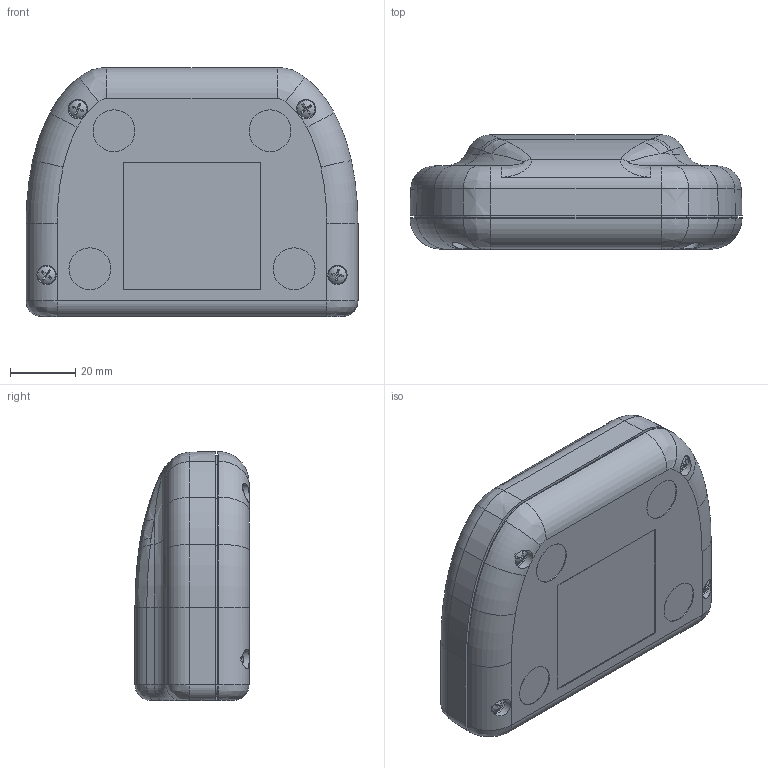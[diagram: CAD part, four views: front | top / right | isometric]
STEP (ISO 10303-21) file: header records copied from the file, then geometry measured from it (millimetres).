
FILE_DESCRIPTION(/* description */ (''),/* implementation_level */ '2;1');
FILE_NAME(/* name */ 'C:/Users/jschulze.ICCNETWORK/Desktop/Millennium Series Models Drawings/Millennium Series Model.step',/* time_stamp */ '2019-10-07T10:32:27-05:00',/* author */ (''),/* organization */ (''),/* preprocessor_version */ 'ST-DEVELOPER v18',/* originating_system */ 'Autodesk Translation Framework v8.6.0.1094',/* authorisation */ '');
FILE_SCHEMA (('AUTOMOTIVE_DESIGN { 1 0 10303 214 3 1 1 }'));
Length unit declared in the file: inch
Products named in the file (5): (Unsaved); Bottom Cover; Faceplate; Top Cover; Screw
Assembly tree (7 placements, depth 2):
  (Unsaved)
    Bottom Cover
    Faceplate
    Top Cover
    Screw  x4
Bounding box: 101.6 x 34.92 x 76.2 mm (x, y, z)
Volume: 54632.2 mm3; surface area: 47132.8 mm2
Topology: 7 solids, 7 shells, 601 faces, 1627 edges, 1060 vertices
Faces by surface type: cylinder 212, plane 191, cone 96, bspline 50, torus 48, sphere 4
Full cylindrical faces by diameter (mm): 1.651 x44, 2.184 x20, 2.794 x24, 5.918 x4, 12.827 x4
Entity records: 18210 total; most frequent: CARTESIAN_POINT 6863, DIRECTION 2435, ORIENTED_EDGE 2360, EDGE_CURVE 1180, AXIS2_PLACEMENT_3D 966, VERTEX_POINT 760, CIRCLE 539, LINE 503
